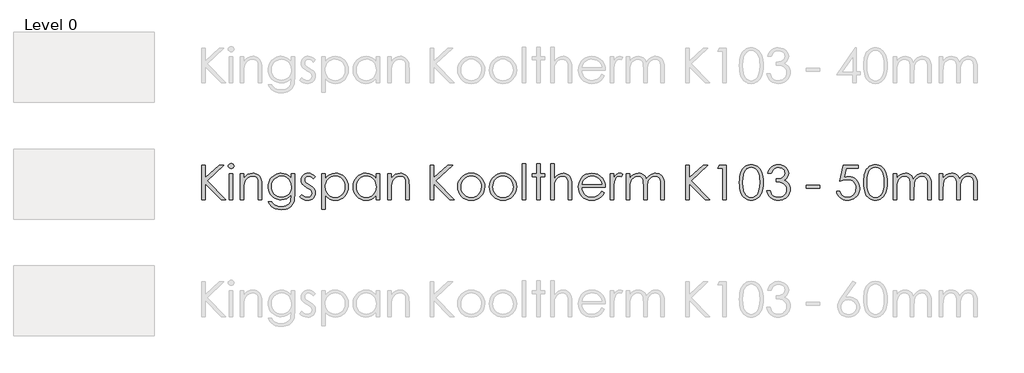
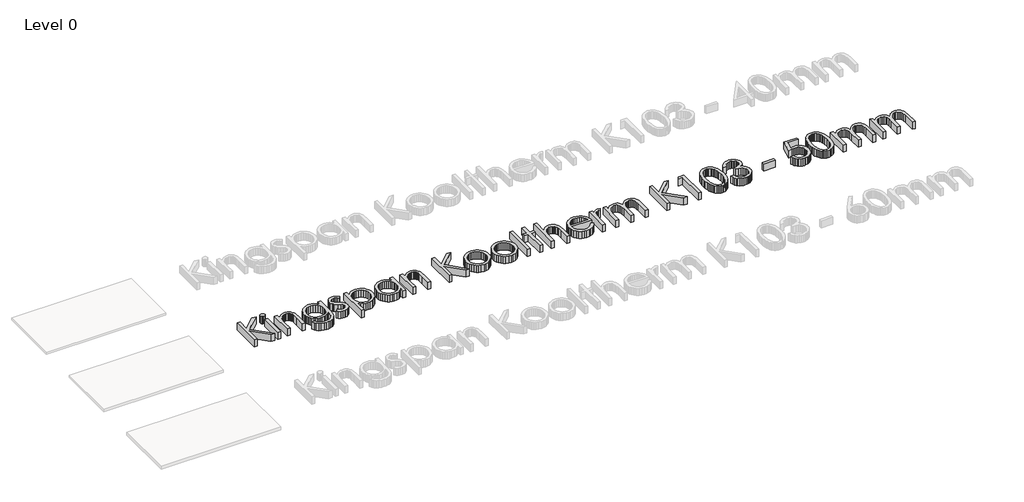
# One storey, part 11 of 13: 1 proxy.
"""IFC4 building model written with IfcOpenShell, lengths in millimetres."""

from ifc_helpers import new_model, si_unit, origin, origin_with_axes, place, context, project, spatial, polyline, outline, extrude, element, save

model = new_model("IFC4")

# Units and contexts
model_context = context("Model", 3, world=origin())
ifc_project = project(units=[si_unit("LENGTHUNIT", "METRE", prefix="MILLI")], contexts=[model_context])

# Site, building, storey
site = spatial("IfcSite", under=ifc_project)
building = spatial("IfcBuilding", under=site)
storey = spatial("IfcBuildingStorey", under=building, Name="Level 0", Elevation=0.0)

# Proxy
placement = place(None, origin())
element("IfcBuildingElementProxy", 1, Name="600mm KI_CenturyGothic", ObjectType="600mm KI_CenturyGothic", at=placement, inside=storey, context=model_context, shape_type="SweptSolid", body=[
    extrude(outline(polyline([(-3852.2663848, 1900.8965983), (-3792.944575, 1900.8965983), (-3792.944575, 1681.683973), (-3555.1938841, 1900.8965983), (-3471.6181051, 1900.8965983), (-3760.9664119, 1633.9484541), (-3441.9572002, 1307.6785001), (-3520.8984627, 1307.6785001), (-3792.944575, 1585.9039675), (-3792.944575, 1307.6785001), (-3852.2663848, 1307.6785001), (-3852.2663848, 1900.8965983)])), origin_with_axes(), (0.0, 0.0, 1.0), 150.0),
    extrude(outline(polyline([(-3348.1854852, 1930.5575033), (-3329.145347, 1927.2747208), (-3313.1176445, 1917.4263735), (-3302.226531, 1902.9821307), (-3298.5961598, 1885.911662), (-3302.226531, 1869.0729191), (-3313.1176445, 1854.7059183), (-3329.145347, 1844.857571), (-3348.1854852, 1841.5747885), (-3366.9938975, 1844.857571), (-3382.9443581, 1854.7059183), (-3393.8354717, 1869.0729191), (-3397.4658428, 1885.911662), (-3393.8354717, 1902.9821307), (-3382.9443581, 1917.4263735), (-3366.9938975, 1927.2747208), (-3348.1854852, 1930.5575033)])), origin_with_axes(), (0.0, 0.0, 1.0), 150.0),
    extrude(outline(polyline([(-3377.6919062, 1752.5920738), (-3318.3700964, 1752.5920738), (-3318.3700964, 1307.6785001), (-3377.6919062, 1307.6785001), (-3377.6919062, 1752.5920738)])), origin_with_axes(), (0.0, 0.0, 1.0), 150.0),
    extrude(outline(polyline([(-3189.8395084, 1752.5920738), (-3130.5176986, 1752.5920738), (-3130.5176986, 1673.4963274), (-3096.9946967, 1713.0055796), (-3060.0730495, 1740.696815), (-3019.7141359, 1757.0334853), (-2975.879335, 1762.4790421), (-2953.4357238, 1760.9004099), (-2932.2955704, 1756.1645135), (-2912.4588747, 1748.2713528), (-2893.9256368, 1737.2209277), (-2877.212412, 1723.4960006), (-2862.835756, 1707.5793333), (-2841.0921499, 1669.1707787), (-2833.6238199, 1644.7912914), (-2828.2892984, 1614.4448643), (-2824.0216812, 1535.8511905), (-2824.0216812, 1307.6785001), (-2883.343491, 1307.6785001), (-2883.343491, 1520.8662542), (-2883.343491, 1623.907002), (-2884.7290183, 1644.7043943), (-2889.8125035, 1662.7596977), (-2898.2849788, 1678.0729123), (-2910.1464442, 1690.644038), (-2924.7403432, 1700.4441091), (-2941.4101193, 1707.4441599), (-2980.977303, 1713.0442006), (-3005.3471351, 1710.8862539), (-3028.4038541, 1704.4124138), (-3050.1474602, 1693.6226803), (-3070.5779533, 1678.5170534), (-3088.6622225, 1660.2348518), (-3103.3671568, 1639.915394), (-3114.6927562, 1617.55868), (-3122.6390208, 1593.1647099), (-3128.5480292, 1546.0857475), (-3130.5176986, 1471.5858965), (-3130.5176986, 1307.6785001), (-3189.8395084, 1307.6785001), (-3189.8395084, 1752.5920738)])), origin_with_axes(), (0.0, 0.0, 1.0), 150.0),
    extrude(outline(polyline([(-2319.7862977, 1752.5920738), (-2260.4644879, 1752.5920738), (-2260.4644879, 1401.604699), (-2264.5196897, 1321.3503235), (-2269.588692, 1290.5500999), (-2276.6852953, 1265.9678526), (-2289.9371156, 1237.3545415), (-2307.2924139, 1212.2267729), (-2328.7511904, 1190.5845469), (-2354.3134448, 1172.4278634), (-2383.3226209, 1158.0656902), (-2415.122162, 1147.8069951), (-2449.7120682, 1141.651778), (-2487.0923395, 1139.6000389), (-2541.0458345, 1143.6166198), (-2589.206184, 1155.6663624), (-2630.260275, 1174.4940853), (-2662.8949946, 1198.8446068), (-2690.2000204, 1232.1938144), (-2715.2650299, 1278.0175952), (-2655.94322, 1278.0175952), (-2642.4355358, 1256.848476), (-2627.0933555, 1238.6048954), (-2609.9166791, 1223.2868532), (-2590.9055067, 1210.8943494), (-2569.7894914, 1201.3308318), (-2546.2982864, 1194.4997477), (-2492.1903075, 1189.0348805), (-2438.5071593, 1194.3645743), (-2415.083541, 1201.0266916), (-2393.93856, 1210.3536559), (-2359.6624492, 1234.3952097), (-2336.8567664, 1263.8823202), (-2329.3884364, 1282.5217658), (-2324.0539149, 1306.2302137), (-2319.7862977, 1368.8541165), (-2319.7862977, 1391.5632468), (-2354.757586, 1355.7809182), (-2396.6420279, 1329.3834852), (-2443.392712, 1313.1047464), (-2492.9627269, 1307.6785001), (-2522.4063889, 1309.5757553), (-2550.9521133, 1315.2675207), (-2578.5999001, 1324.7537964), (-2605.3497494, 1338.0345825), (-2630.1540674, 1354.5257366), (-2651.9652601, 1373.6431168), (-2670.7833277, 1395.3867228), (-2686.6082702, 1419.7565549), (-2699.1456025, 1446.0719183), (-2708.1008399, 1473.6521184), (-2713.4739824, 1502.4971553), (-2715.2650299, 1532.607029), (-2713.3967404, 1562.8955247), (-2707.7918722, 1592.1219437), (-2698.4504251, 1620.286286), (-2685.3723991, 1647.3885517), (-2668.9971079, 1672.5742517), (-2649.7638648, 1694.9888971), (-2627.67267, 1714.632488), (-2602.7235235, 1731.5050242), (-2575.9833294, 1745.056157), (-2548.5189922, 1754.7355376), (-2520.3305117, 1760.543166), (-2491.4178881, 1762.4790421), (-2444.5320306, 1757.5355579), (-2400.8903346, 1742.7051055), (-2359.6045177, 1716.1338782), (-2319.7862977, 1675.9680694), (-2319.7862977, 1752.5920738)]), holes=[polyline([(-2484.1571458, 1713.0442006), (-2529.0154023, 1707.0193293), (-2570.5908765, 1688.9447153), (-2606.2187212, 1660.2300242), (-2633.2340897, 1622.2849212), (-2650.2659375, 1578.0059792), (-2655.94322, 1530.2897708), (-2653.0080263, 1494.3770964), (-2644.2024452, 1461.7182387), (-2629.5264766, 1432.3131977), (-2608.9801206, 1406.1619734), (-2583.7606272, 1384.703197), (-2555.0652466, 1369.3754996), (-2522.8939786, 1360.1788811), (-2487.2468234, 1357.1133416), (-2451.3244937, 1360.154743), (-2419.1001219, 1369.2789472), (-2390.573708, 1384.4859541), (-2365.7452519, 1405.7757637), (-2345.6382095, 1432.0187128), (-2331.2760363, 1462.0851379), (-2322.6587323, 1495.975039), (-2319.7862977, 1533.6884162), (-2325.0773706, 1582.3894593), (-2340.9505892, 1625.6063246), (-2366.4983608, 1661.8327944), (-2400.8130926, 1689.5626508), (-2440.9982119, 1707.1738131), (-2484.1571458, 1713.0442006)])]), origin_with_axes(), (0.0, 0.0, 1.0), 150.0),
    extrude(outline(polyline([(-1904.5336289, 1701.3034257), (-1940.9918246, 1663.609359), (-1962.9575012, 1685.2371022), (-1984.6721416, 1700.6854902), (-2006.1357456, 1709.954523), (-2027.3483133, 1713.0442006), (-2052.181597, 1708.3710632), (-2073.2300256, 1694.3516511), (-2087.5970264, 1674.1142629), (-2092.3860267, 1650.787197), (-2088.4466878, 1629.2366958), (-2076.628671, 1608.7675817), (-2052.0657341, 1586.599145), (-2010.2006027, 1560.877579), (-1958.3326401, 1528.0111336), (-1939.8428507, 1512.1861912), (-1926.315856, 1496.7667689), (-1909.9791857, 1464.0934284), (-1904.5336289, 1427.5579908), (-1906.9474396, 1401.4115941), (-1914.1888714, 1377.3507299), (-1926.2579245, 1355.375398), (-1943.1545989, 1335.4855985), (-1963.6719892, 1318.9944443), (-1986.6031901, 1307.2150485), (-2011.9482016, 1300.147411), (-2039.7070237, 1297.7915318), (-2077.4397114, 1301.6729393), (-2113.3958344, 1313.3171617), (-2145.4512394, 1331.7972958), (-2171.4817731, 1356.1864383), (-2135.7959969, 1396.6612148), (-2114.0041146, 1375.0334717), (-2091.5749863, 1359.5850837), (-2068.5086121, 1350.3160509), (-2044.8049918, 1347.2263733), (-2013.637869, 1352.8650349), (-1987.4914724, 1369.7810198), (-1969.7644472, 1394.3439566), (-1963.8554388, 1422.9234744), (-1967.7561567, 1446.7139919), (-1979.4583106, 1467.7237995), (-2005.0253927, 1489.4287846), (-2050.2119275, 1516.2317378), (-2099.762632, 1546.8967879), (-2117.441381, 1562.0555186), (-2130.3890611, 1577.0983864), (-2146.3781427, 1609.2310334), (-2151.7078365, 1645.689229), (-2149.5305794, 1669.7356104), (-2142.9988078, 1691.6674937), (-2132.1125219, 1711.4848789), (-2116.8717217, 1729.187766), (-2098.309518, 1743.7526993), (-2077.4590218, 1754.1562231), (-2054.3202332, 1760.3983373), (-2028.8931521, 1762.4790421), (-1997.9481, 1758.6555661), (-1966.9064954, 1747.185138), (-1935.7683384, 1728.0677579), (-1904.5336289, 1701.3034257)])), origin_with_axes(), (0.0, 0.0, 1.0), 150.0),
    extrude(outline(polyline([(-1795.7769776, 1752.5920738), (-1736.4551678, 1752.5920738), (-1736.4551678, 1671.4880369), (-1700.9238754, 1711.7310876), (-1660.4490989, 1740.0788795), (-1614.9922173, 1756.8790014), (-1564.5146096, 1762.4790421), (-1520.0618732, 1758.2403906), (-1478.9305402, 1745.5244363), (-1441.1206107, 1724.331179), (-1406.6320845, 1694.6606189), (-1377.9077381, 1659.0231189), (-1357.3903478, 1619.929042), (-1345.0799137, 1577.3783884), (-1340.9764356, 1531.371158), (-1345.0412927, 1484.4708176), (-1357.235864, 1441.2491246), (-1377.5601494, 1401.706079), (-1406.014149, 1365.8416808), (-1440.2130179, 1336.0697406), (-1477.7719111, 1314.8040691), (-1518.6908288, 1302.0446661), (-1562.9697708, 1297.7915318), (-1612.6170277, 1303.256399), (-1658.0545988, 1319.6510008), (-1699.3211052, 1346.8980951), (-1736.4551678, 1384.92044), (-1736.4551678, 1149.4870072), (-1795.7769776, 1149.4870072), (-1795.7769776, 1752.5920738)]), holes=[polyline([(-1568.5311905, 1713.0442006), (-1602.5852307, 1709.7469353), (-1633.8392507, 1699.8551393), (-1662.2932503, 1683.3688128), (-1687.9472295, 1660.2879556), (-1709.1694525, 1632.3022353), (-1724.3281832, 1601.1013192), (-1733.4234216, 1566.6852074), (-1736.4551678, 1529.0538998), (-1731.048232, 1480.1983728), (-1714.8274246, 1436.5180558), (-1688.5265441, 1399.6736505), (-1652.8793888, 1371.3258586), (-1611.4390881, 1353.2512446), (-1567.7587711, 1347.2263733), (-1525.0632888, 1353.2898656), (-1485.0326535, 1371.4803424), (-1450.2544701, 1400.5812433), (-1423.3163435, 1439.3760076), (-1406.05277, 1484.0411593), (-1400.2982454, 1530.7532225), (-1405.9948385, 1577.6970114), (-1423.0846177, 1622.1304373), (-1449.8103289, 1660.4810605), (-1484.414718, 1689.1764411), (-1524.7157001, 1707.0772607), (-1568.5311905, 1713.0442006)])]), origin_with_axes(), (0.0, 0.0, 1.0), 150.0),
    extrude(outline(polyline([(-807.0801472, 1752.5920738), (-807.0801472, 1307.6785001), (-866.401957, 1307.6785001), (-866.401957, 1383.5300851), (-903.4780882, 1345.6815345), (-944.8797679, 1318.9558233), (-990.4525125, 1303.0826047), (-1040.0418379, 1297.7915318), (-1084.3159523, 1302.0446661), (-1125.2203871, 1314.8040691), (-1162.7551422, 1336.0697406), (-1196.9202178, 1365.8416808), (-1225.340424, 1401.706079), (-1245.6405713, 1441.2491246), (-1257.8206597, 1484.4708176), (-1261.8806892, 1531.371158), (-1257.7820388, 1577.3783884), (-1245.4860875, 1619.929042), (-1224.9928353, 1659.0231189), (-1196.3022822, 1694.6606189), (-1161.8475494, 1724.331179), (-1124.061758, 1745.5244363), (-1082.9449079, 1758.2403906), (-1038.4969991, 1762.4790421), (-987.7490446, 1756.8790014), (-942.0990581, 1740.0788795), (-921.2051134, 1727.3918909), (-901.6242816, 1711.7310876), (-866.401957, 1671.4880369), (-866.401957, 1752.5920738), (-807.0801472, 1752.5920738)]), holes=[polyline([(-1034.3259343, 1713.0442006), (-1078.1414247, 1707.0772607), (-1118.4424068, 1689.1764411), (-1153.0467959, 1660.4810605), (-1179.7725071, 1622.1304373), (-1196.8622863, 1577.6970114), (-1202.5588794, 1530.7532225), (-1196.8043548, 1484.0411593), (-1179.5407813, 1439.3760076), (-1152.6026548, 1400.5812433), (-1117.8244713, 1371.4803424), (-1077.6779731, 1353.2898656), (-1034.6349021, 1347.2263733), (-991.0125165, 1353.2512446), (-949.7460102, 1371.3258586), (-914.2726493, 1399.6736505), (-888.0297002, 1436.5180558), (-871.8088928, 1480.1983728), (-866.401957, 1529.0538998), (-869.4337032, 1566.6852074), (-878.5289416, 1601.1013192), (-893.6876723, 1632.3022353), (-914.9098953, 1660.2879556), (-940.5638746, 1683.3688128), (-969.0178742, 1699.8551393), (-1000.2718941, 1709.7469353), (-1034.3259343, 1713.0442006)])]), origin_with_axes(), (0.0, 0.0, 1.0), 150.0),
    extrude(outline(polyline([(-668.662591, 1752.5920738), (-609.3407811, 1752.5920738), (-609.3407811, 1673.4963274), (-575.8177792, 1713.0055796), (-538.896132, 1740.696815), (-498.5372184, 1757.0334853), (-454.7024175, 1762.4790421), (-432.2588064, 1760.9004099), (-411.1186529, 1756.1645135), (-391.2819572, 1748.2713528), (-372.7487193, 1737.2209277), (-356.0354946, 1723.4960006), (-341.6588385, 1707.5793333), (-319.9152324, 1669.1707787), (-312.4469024, 1644.7912914), (-307.1123809, 1614.4448643), (-302.8447637, 1535.8511905), (-302.8447637, 1307.6785001), (-362.1665735, 1307.6785001), (-362.1665735, 1520.8662542), (-362.1665735, 1623.907002), (-363.5521008, 1644.7043943), (-368.635586, 1662.7596977), (-377.1080613, 1678.0729123), (-388.9695267, 1690.644038), (-403.5634257, 1700.4441091), (-420.2332018, 1707.4441599), (-459.8003855, 1713.0442006), (-484.1702176, 1710.8862539), (-507.2269366, 1704.4124138), (-528.9705427, 1693.6226803), (-549.4010358, 1678.5170534), (-567.485305, 1660.2348518), (-582.1902393, 1639.915394), (-593.5158387, 1617.55868), (-601.4621033, 1593.1647099), (-607.3711117, 1546.0857475), (-609.3407811, 1471.5858965), (-609.3407811, 1307.6785001), (-668.662591, 1307.6785001), (-668.662591, 1752.5920738)])), origin_with_axes(), (0.0, 0.0, 1.0), 150.0),
    extrude(outline(polyline([(62.9730635, 1900.8965983), (122.2948734, 1900.8965983), (122.2948734, 1681.683973), (360.0455643, 1900.8965983), (443.6213432, 1900.8965983), (154.2730365, 1633.9484541), (473.2822481, 1307.6785001), (394.3409856, 1307.6785001), (122.2948734, 1585.9039675), (122.2948734, 1307.6785001), (62.9730635, 1307.6785001), (62.9730635, 1900.8965983)])), origin_with_axes(), (0.0, 0.0, 1.0), 150.0),
    extrude(outline(polyline([(760.1588128, 1762.4790421), (809.4681362, 1757.8541809), (854.3553585, 1743.9795975), (894.8204798, 1720.8552917), (930.8635, 1688.4812637), (957.7630055, 1653.2492839), (976.9769381, 1614.908316), (988.5052976, 1573.45836), (992.3480841, 1528.8994159), (988.283227, 1484.0846079), (976.0886558, 1442.1760279), (955.7643703, 1403.1736759), (927.3103707, 1367.0775519), (892.4742558, 1336.7649181), (853.0036246, 1315.1130368), (808.8984769, 1302.1219081), (760.1588128, 1297.7915318), (711.2839754, 1302.1219081), (667.0822753, 1315.1130368), (627.5537126, 1336.7649181), (592.6982872, 1367.0775519), (564.2442876, 1403.1736759), (543.9200022, 1442.1760279), (531.7254309, 1484.0846079), (527.6605738, 1528.8994159), (531.5033603, 1573.2652551), (543.0317198, 1614.5993482), (562.2456524, 1652.9016951), (589.145158, 1688.1722959), (625.2074886, 1720.6814974), (665.7305413, 1743.9023555), (710.7143161, 1757.8348705), (760.1588128, 1762.4790421)]), holes=[polyline([(760.004329, 1713.0442006), (725.7282181, 1709.6696933), (693.9624704, 1699.5461716), (664.7070856, 1682.6736353), (637.962064, 1659.0520846), (615.6584538, 1630.6415336), (599.7273037, 1599.4019965), (590.1686137, 1565.3334734), (586.9823836, 1528.4359643), (592.7948396, 1480.7004454), (610.2322075, 1436.3635719), (637.5758543, 1398.5729529), (673.1071466, 1370.4761972), (714.6439998, 1353.0388293), (760.004329, 1347.2263733), (805.3646581, 1353.0388293), (846.9015113, 1370.4761972), (882.4328037, 1398.5729529), (909.7764504, 1436.3635719), (927.2138183, 1480.7004454), (933.0262743, 1528.4359643), (929.8255614, 1565.3334734), (920.2234227, 1599.4019965), (904.2198583, 1630.6415336), (881.8148681, 1659.0520846), (854.9974321, 1682.6736353), (825.7565303, 1699.5461716), (794.0921625, 1709.6696933), (760.004329, 1713.0442006)])]), origin_with_axes(), (0.0, 0.0, 1.0), 150.0),
    extrude(outline(polyline([(1303.9420695, 1762.4790421), (1353.2513929, 1757.8541809), (1398.1386152, 1743.9795975), (1438.6037365, 1720.8552917), (1474.6467567, 1688.4812637), (1501.5462622, 1653.2492839), (1520.7601948, 1614.908316), (1532.2885543, 1573.45836), (1536.1313408, 1528.8994159), (1532.0664837, 1484.0846079), (1519.8719125, 1442.1760279), (1499.547627, 1403.1736759), (1471.0936274, 1367.0775519), (1436.2575126, 1336.7649181), (1396.7868813, 1315.1130368), (1352.6817336, 1302.1219081), (1303.9420695, 1297.7915318), (1255.0672321, 1302.1219081), (1210.865532, 1315.1130368), (1171.3369693, 1336.7649181), (1136.4815439, 1367.0775519), (1108.0275443, 1403.1736759), (1087.7032589, 1442.1760279), (1075.5086876, 1484.0846079), (1071.4438305, 1528.8994159), (1075.286617, 1573.2652551), (1086.8149766, 1614.5993482), (1106.0289091, 1652.9016951), (1132.9284147, 1688.1722959), (1168.9907453, 1720.6814974), (1209.5137981, 1743.9023555), (1254.4975728, 1757.8348705), (1303.9420695, 1762.4790421)]), holes=[polyline([(1303.7875857, 1713.0442006), (1269.5114748, 1709.6696933), (1237.7457271, 1699.5461716), (1208.4903423, 1682.6736353), (1181.7453207, 1659.0520846), (1159.4417105, 1630.6415336), (1143.5105604, 1599.4019965), (1133.9518704, 1565.3334734), (1130.7656404, 1528.4359643), (1136.5780963, 1480.7004454), (1154.0154643, 1436.3635719), (1181.359111, 1398.5729529), (1216.8904033, 1370.4761972), (1258.4272565, 1353.0388293), (1303.7875857, 1347.2263733), (1349.1479149, 1353.0388293), (1390.684768, 1370.4761972), (1426.2160604, 1398.5729529), (1453.5597071, 1436.3635719), (1470.997075, 1480.7004454), (1476.809531, 1528.4359643), (1473.6088181, 1565.3334734), (1464.0066795, 1599.4019965), (1448.003115, 1630.6415336), (1425.5981249, 1659.0520846), (1398.7806889, 1682.6736353), (1369.539787, 1699.5461716), (1337.8754193, 1709.6696933), (1303.7875857, 1713.0442006)])]), origin_with_axes(), (0.0, 0.0, 1.0), 150.0),
    extrude(outline(polyline([(1635.0010238, 1920.6705349), (1694.3228337, 1920.6705349), (1694.3228337, 1307.6785001), (1635.0010238, 1307.6785001), (1635.0010238, 1920.6705349)])), origin_with_axes(), (0.0, 0.0, 1.0), 150.0),
    extrude(outline(polyline([(1882.1752314, 1920.6705349), (1941.4970413, 1920.6705349), (1941.4970413, 1752.5920738), (2020.5927877, 1752.5920738), (2020.5927877, 1703.1572323), (1941.4970413, 1703.1572323), (1941.4970413, 1307.6785001), (1882.1752314, 1307.6785001), (1882.1752314, 1703.1572323), (1803.079485, 1703.1572323), (1803.079485, 1752.5920738), (1882.1752314, 1752.5920738), (1882.1752314, 1920.6705349)])), origin_with_axes(), (0.0, 0.0, 1.0), 150.0),
    extrude(outline(polyline([(2119.4624707, 1920.6705349), (2178.7842806, 1920.6705349), (2178.7842806, 1671.9514886), (2212.5583188, 1711.6538456), (2249.6151394, 1739.9243956), (2289.9161216, 1756.8403805), (2333.4226442, 1762.4790421), (2355.8662553, 1760.9004099), (2377.0064088, 1756.1645135), (2396.8431044, 1748.2713528), (2415.3763424, 1737.2209277), (2432.0895671, 1723.5104834), (2446.4662232, 1707.6372648), (2468.2098293, 1669.4025045), (2475.6781593, 1645.0954316), (2481.0126808, 1614.7345216), (2485.280298, 1535.8511905), (2485.280298, 1307.6785001), (2425.9584882, 1307.6785001), (2425.9584882, 1520.8662542), (2424.5681332, 1585.247411), (2420.3970685, 1623.907002), (2406.879729, 1662.7596977), (2397.1665551, 1678.0729123), (2385.4837117, 1690.644038), (2371.840854, 1700.4441091), (2356.2476374, 1707.4441599), (2319.2101273, 1713.0442006), (2296.3416854, 1710.8862539), (2274.6994594, 1704.4124138), (2254.2834492, 1693.6226803), (2235.0936547, 1678.5170534), (2218.1052556, 1660.2348518), (2204.2934312, 1639.915394), (2193.6581816, 1617.55868), (2186.1995068, 1593.1647099), (2180.6380871, 1546.3174733), (2178.7842806, 1471.5858965), (2178.7842806, 1307.6785001), (2119.4624707, 1307.6785001), (2119.4624707, 1920.6705349)])), origin_with_axes(), (0.0, 0.0, 1.0), 150.0),
    extrude(outline(polyline([(2991.0605203, 1455.9830247), (3038.950523, 1430.8021523), (3013.3255094, 1388.9177104), (2984.0315038, 1355.9547125), (2950.952643, 1330.8703926), (2913.9730643, 1312.6219843), (2872.4941426, 1301.4991449), (2825.9172528, 1297.7915318), (2774.4258447, 1302.2232881), (2728.8627554, 1315.518557), (2689.227985, 1337.6773385), (2655.5215335, 1368.6996326), (2628.6220279, 1405.3026569), (2609.4080954, 1444.2036288), (2597.8797358, 1485.4025485), (2594.0369493, 1528.8994159), (2597.3197318, 1569.7797126), (2607.1680791, 1608.381372), (2623.5819913, 1644.7043943), (2646.5614684, 1678.7487793), (2682.7493173, 1715.3807692), (2724.5758277, 1741.5464764), (2772.0409998, 1757.2459007), (2825.1448334, 1762.4790421), (2879.7935059, 1757.1107273), (2928.6490329, 1741.0057828), (2971.7114143, 1714.1642087), (3008.9806503, 1676.5860049), (3030.4539096, 1644.414737), (3045.9022976, 1608.458614), (3055.3258143, 1568.7176359), (3058.7244596, 1525.1918028), (2653.3587591, 1525.1918028), (2657.095338, 1487.9370497), (2666.6057518, 1454.1871496), (2681.8900007, 1423.9421025), (2702.9480845, 1397.2019084), (2728.3124066, 1375.3376118), (2756.5153699, 1359.7202571), (2787.5569744, 1350.3498443), (2821.4372203, 1347.2263733), (2854.9602222, 1350.238809), (2887.5563208, 1359.2761159), (2917.2944677, 1373.3148385), (2942.2436143, 1391.331521), (2965.725164, 1417.4972281), (2991.0605203, 1455.9830247)]), holes=[polyline([(2999.4026498, 1574.6266443), (2984.9777175, 1617.1483322), (2965.1844704, 1650.1692615), (2939.0766947, 1675.6977226), (2905.7081767, 1695.742006), (2867.7630738, 1708.7186519), (2827.9255433, 1713.0442006), (2795.503239, 1710.3310774), (2765.4368139, 1702.191708), (2737.726268, 1688.6260923), (2712.3716012, 1669.6342304), (2695.8321708, 1651.820308), (2681.4362043, 1630.0477362), (2669.1837016, 1604.316515), (2659.0746627, 1574.6266443), (2999.4026498, 1574.6266443)])]), origin_with_axes(), (0.0, 0.0, 1.0), 150.0),
    extrude(outline(polyline([(3137.820206, 1752.5920738), (3197.1420159, 1752.5920738), (3197.1420159, 1688.1722959), (3222.6897875, 1721.2125357), (3249.589293, 1744.3271862), (3277.7632906, 1757.9410781), (3307.1345382, 1762.4790421), (3330.4616041, 1758.694187), (3355.3335087, 1747.3396219), (3325.8270877, 1705.3200066), (3297.2475699, 1713.0442006), (3270.8308265, 1707.0965712), (3245.3409863, 1689.2536831), (3223.2884125, 1658.8976007), (3207.183468, 1615.4103886), (3199.6523789, 1557.2858288), (3197.1420159, 1459.8451217), (3197.1420159, 1307.6785001), (3137.820206, 1307.6785001), (3137.820206, 1752.5920738)])), origin_with_axes(), (0.0, 0.0, 1.0), 150.0),
    extrude(outline(polyline([(3414.6553185, 1752.5920738), (3473.9771284, 1752.5920738), (3473.9771284, 1676.4315211), (3503.5607913, 1712.9283377), (3533.9168737, 1738.0705891), (3577.3268439, 1756.3769288), (3622.8995884, 1762.4790421), (3653.7384329, 1759.331433), (3682.9165757, 1749.8886059), (3708.6767627, 1735.2126373), (3729.2617397, 1716.365604), (3746.0425511, 1690.9336953), (3760.3902414, 1656.5031006), (3775.16759, 1680.9018983), (3791.6925376, 1702.191708), (3809.965084, 1720.3725296), (3829.9852293, 1735.4443631), (3851.2798666, 1747.2720352), (3873.375889, 1755.7203723), (3896.2732965, 1760.7893747), (3919.9720892, 1762.4790421), (3962.3006723, 1756.6665861), (3981.4952943, 1749.4010161), (3999.3768034, 1739.2292182), (4015.4914031, 1726.46016), (4029.385297, 1711.4028093), (4050.5109676, 1674.4232306), (4057.8103309, 1651.0478886), (4063.0241619, 1622.4780261), (4067.1952266, 1549.7547397), (4067.1952266, 1307.6785001), (4007.8734168, 1307.6785001), (4007.8734168, 1553.3078689), (4005.4209852, 1614.4255538), (3998.0636904, 1652.8727294), (3984.7587663, 1677.3391139), (3964.4634466, 1696.5144254), (3938.3942919, 1708.9117568), (3907.7678627, 1713.0442006), (3888.1194443, 1711.4945341), (3869.3399976, 1706.8455349), (3834.3880198, 1688.2495379), (3805.6540182, 1659.3031209), (3785.8800816, 1622.0531954), (3779.1889985, 1597.8957787), (3774.4096535, 1566.8252084), (3770.5861775, 1483.9446069), (3770.5861775, 1307.6785001), (3711.2643677, 1307.6785001), (3711.2643677, 1538.0139648), (3708.850557, 1606.469634), (3701.6091252, 1648.7016647), (3688.3621325, 1674.9446137), (3667.9316394, 1695.4330383), (3641.6114484, 1708.64141), (3610.6953619, 1713.0442006), (3573.7544042, 1707.0000188), (3539.2465676, 1688.8674734), (3510.2808401, 1660.500371), (3489.9662099, 1623.7525181), (3477.9743988, 1571.9231764), (3473.9771284, 1498.3116077), (3473.9771284, 1307.6785001), (3414.6553185, 1307.6785001), (3414.6553185, 1752.5920738)])), origin_with_axes(), (0.0, 0.0, 1.0), 150.0),
    extrude(outline(polyline([(4433.0130538, 1900.8965983), (4492.3348637, 1900.8965983), (4492.3348637, 1681.683973), (4730.0855546, 1900.8965983), (4813.6613335, 1900.8965983), (4524.3130268, 1633.9484541), (4843.3222385, 1307.6785001), (4764.3809759, 1307.6785001), (4492.3348637, 1585.9039675), (4492.3348637, 1307.6785001), (4433.0130538, 1307.6785001), (4433.0130538, 1900.8965983)])), origin_with_axes(), (0.0, 0.0, 1.0), 150.0),
    extrude(outline(polyline([(5010.6282802, 1900.8965983), (5125.1008351, 1900.8965983), (5125.1008351, 1307.6785001), (5065.7790253, 1307.6785001), (5065.7790253, 1851.4617568), (4976.7963106, 1851.4617568), (5010.6282802, 1900.8965983)])), origin_with_axes(), (0.0, 0.0, 1.0), 150.0),
    extrude(outline(polyline([(5352.5011061, 1604.1330653), (5354.0797383, 1658.5644948), (5358.8156347, 1706.4593252), (5366.7087954, 1747.8175564), (5377.7592204, 1782.6391884), (5391.6869077, 1812.2807828), (5408.2118552, 1838.0989012), (5427.334063, 1860.0935436), (5449.053531, 1878.26471), (5472.747496, 1892.4917098), (5497.793195, 1902.6538525), (5524.190628, 1908.7511381), (5551.9397949, 1910.7835666), (5580.1427582, 1908.7366552), (5606.974677, 1902.595921), (5632.4355515, 1892.361364), (5656.5253815, 1878.0329841), (5678.7083011, 1859.6156091), (5698.4484443, 1837.1140665), (5715.7458112, 1810.5283563), (5730.6004018, 1779.8584786), (5742.5294539, 1744.3416691), (5751.0502054, 1703.2151637), (5756.1626563, 1656.4789625), (5757.8668066, 1604.1330653), (5756.1867944, 1551.9464797), (5751.1467578, 1505.3792452), (5742.7466968, 1464.4313618), (5730.9866115, 1429.1028296), (5716.2768496, 1398.5777805), (5699.0277589, 1372.0403465), (5679.2393394, 1349.4905277), (5656.9115912, 1330.928324), (5632.6527944, 1316.4309774), (5607.0712295, 1306.0757299), (5580.1668963, 1299.8625813), (5551.9397949, 1297.7915318), (5524.2147661, 1299.7998222), (5497.8897474, 1305.8246936), (5472.964739, 1315.8661457), (5449.4397407, 1329.9241788), (5427.8651013, 1347.9601718), (5408.7911698, 1369.9355036), (5392.2179461, 1395.8501745), (5378.1454301, 1425.7041842), (5366.9260384, 1460.7237487), (5358.9121871, 1502.1350837), (5354.1038764, 1549.9381893), (5352.5011061, 1604.1330653)]), holes=[polyline([(5411.8229159, 1604.2875492), (5416.206396, 1515.961391), (5421.6857461, 1480.9804475), (5429.3568363, 1452.1209277), (5439.1713903, 1427.8814414), (5451.0811319, 1406.7605985), (5465.0860611, 1388.7583989), (5481.1861779, 1373.8748426), (5516.4857445, 1353.8884906), (5534.8886366, 1348.8919027), (5553.7936014, 1347.2263733), (5572.7854634, 1348.8581093), (5591.1400794, 1353.7533172), (5625.9375733, 1373.334149), (5641.694929, 1388.0101176), (5655.4439943, 1405.9302476), (5667.1847692, 1427.0945392), (5676.9172536, 1451.5029922), (5686.3793912, 1484.8618549), (5693.138061, 1521.4455687), (5698.5449967, 1604.2875492), (5693.7173755, 1685.8936587), (5687.682849, 1720.5849449), (5679.2345118, 1751.2017189), (5668.652366, 1777.864671), (5656.2164137, 1800.6944918), (5641.9266548, 1819.6911814), (5625.7830894, 1834.8547397), (5590.7152487, 1854.7252288), (5572.4861509, 1859.692851), (5553.7936014, 1861.3487251), (5534.7776014, 1859.692851), (5516.3505711, 1854.7252288), (5481.2634199, 1834.8547397), (5465.3177869, 1820.0435978), (5451.3900996, 1802.1041572), (5439.480358, 1781.0364181), (5429.5885621, 1756.8403805), (5421.8160919, 1727.9856883), (5416.2643275, 1692.9419857), (5411.8229159, 1604.2875492)])]), origin_with_axes(), (0.0, 0.0, 1.0), 150.0),
    extrude(outline(polyline([(5896.2843628, 1762.4790421), (5836.962553, 1762.4790421), (5847.4867673, 1796.1082517), (5861.9116996, 1825.6243279), (5880.2373498, 1851.0272709), (5902.463718, 1872.3170806), (5927.7314876, 1889.1461682), (5955.181342, 1901.1669451), (5984.8132812, 1908.3794113), (6016.6273051, 1910.7835666), (6062.9145376, 1905.6276672), (6105.9962296, 1890.1599687), (6142.7827034, 1865.9446205), (6170.1842816, 1834.545772), (6187.2161294, 1798.7634433), (6192.8934119, 1761.3976549), (6188.2106193, 1725.962915), (6174.1622415, 1694.4288931), (6150.7482785, 1666.7955891), (6117.9687303, 1643.063003), (6155.3538292, 1621.8987115), (6185.3237018, 1592.7012582), (6201.6120959, 1568.601773), (6213.2466631, 1543.1119328), (6220.2274034, 1516.2317378), (6222.5543169, 1487.9611878), (6220.8549942, 1463.2968708), (6215.7570261, 1439.2022132), (6207.2604128, 1415.6772149), (6195.365154, 1392.7218759), (6180.5347016, 1371.3355138), (6163.232507, 1352.5174462), (6143.4585704, 1336.2676731), (6121.2128917, 1322.5861945), (6097.0361646, 1311.7385296), (6071.4690825, 1303.9901975), (6044.5116454, 1299.3411982), (6016.1638535, 1297.7915318), (5978.6290984, 1300.4612064), (5944.3481599, 1308.47023), (5913.3210382, 1321.8186027), (5885.5477332, 1340.5063246), (5861.6654909, 1364.3596011), (5842.3115573, 1393.204638), (5827.4859325, 1427.0414353), (5817.1886164, 1465.869993), (5876.5104262, 1465.869993), (5895.5505644, 1415.1220385), (5907.6485832, 1395.830864), (5921.4652352, 1380.5948913), (5941.5288291, 1365.9961647), (5964.180028, 1355.5685028), (5989.4188318, 1349.3119057), (6017.2452407, 1347.2263733), (6048.6054683, 1349.7222535), (6076.7215344, 1357.2098941), (6101.593439, 1369.689295), (6123.2211822, 1387.1604562), (6140.7261368, 1407.9819867), (6153.2296758, 1430.512495), (6160.7317992, 1454.7519812), (6163.232507, 1480.7004454), (6158.2310914, 1515.2662135), (6143.2268446, 1547.5919654), (6119.8032263, 1574.9549226), (6089.5436964, 1594.6323067), (6046.6357988, 1607.4351583), (5985.2670776, 1614.1745175), (5985.2670776, 1663.609359), (6027.1515195, 1667.2590407), (6065.0580014, 1678.2080857), (6096.0706403, 1694.7957923), (6117.2735528, 1715.3614588), (6129.4970898, 1738.9202504), (6133.5716021, 1764.4873325), (6131.5102078, 1783.5178155), (6125.326025, 1801.2158749), (6115.0190537, 1817.5815109), (6100.5892938, 1832.6147235), (6083.0119248, 1845.1858492), (6063.2621263, 1854.1652247), (6041.3398983, 1859.55285), (6017.2452407, 1861.3487251), (5979.2228958, 1855.729374), (5946.7233496, 1838.8713206), (5932.4191078, 1825.6677765), (5919.2445295, 1808.5345487), (5896.2843628, 1762.4790421)])), origin_with_axes(), (0.0, 0.0, 1.0), 150.0),
    extrude(outline(polyline([(6499.3894294, 1554.8527077), (6726.7897004, 1554.8527077), (6726.7897004, 1505.4178662), (6499.3894294, 1505.4178662), (6499.3894294, 1554.8527077)])), origin_with_axes(), (0.0, 0.0, 1.0), 150.0),
    extrude(outline(polyline([(7389.2165767, 1900.8965983), (7389.2165767, 1851.4617568), (7181.8992101, 1851.4617568), (7147.4493049, 1690.4895541), (7185.0275087, 1699.9903127), (7218.6663735, 1703.1572323), (7258.2528677, 1699.7344488), (7294.2089907, 1689.4660984), (7326.5347425, 1672.3521811), (7355.2301232, 1648.3926969), (7378.7502939, 1619.0842083), (7395.5504158, 1585.923278), (7405.6304889, 1548.909906), (7408.9905133, 1508.0440921), (7407.2670525, 1479.0783647), (7402.0966702, 1451.3485083), (7393.4793663, 1424.8545229), (7381.4151408, 1399.5964086), (7366.410894, 1376.3948609), (7348.973526, 1356.0705754), (7329.103037, 1338.6235523), (7306.7994269, 1324.0537914), (7282.3668358, 1312.5640528), (7256.1094038, 1304.3570967), (7228.0271311, 1299.432923), (7198.1200175, 1297.7915318), (7162.7866576, 1300.5481035), (7130.3209047, 1308.8178187), (7100.7227589, 1322.6006774), (7073.9922201, 1341.8966795), (7051.2396412, 1365.5665064), (7033.575375, 1392.4708396), (7020.9994217, 1422.609679), (7013.5117812, 1455.9830247), (7072.833591, 1455.9830247), (7082.4115915, 1423.2517526), (7096.9330762, 1397.3563923), (7116.7649443, 1377.0417621), (7142.2740949, 1361.0526806), (7171.2977538, 1350.6829501), (7201.6731467, 1347.2263733), (7230.9623248, 1350.1519118), (7258.1176943, 1358.9285272), (7283.1392552, 1373.5562196), (7306.0270075, 1394.0349889), (7325.1202495, 1418.9068935), (7338.7582795, 1446.7139919), (7346.9410975, 1477.456284), (7349.6687035, 1511.1337697), (7347.2066167, 1541.3208854), (7339.8203562, 1568.5438415), (7327.509922, 1592.8026383), (7310.2753142, 1614.0972756), (7288.9179178, 1631.4332635), (7264.239118, 1643.816112), (7236.2389148, 1651.245821), (7204.9173082, 1653.7223907), (7176.2122723, 1651.8685842), (7144.6299741, 1646.3071645), (7072.833591, 1624.0614858), (7132.1554008, 1900.8965983), (7389.2165767, 1900.8965983)])), origin_with_axes(), (0.0, 0.0, 1.0), 150.0),
    extrude(outline(polyline([(7478.1992914, 1604.1330653), (7479.7779236, 1658.5644948), (7484.51382, 1706.4593252), (7492.4069808, 1747.8175564), (7503.4574058, 1782.6391884), (7517.3850931, 1812.2807828), (7533.9100406, 1838.0989012), (7553.0322483, 1860.0935436), (7574.7517163, 1878.26471), (7598.4456813, 1892.4917098), (7623.4913804, 1902.6538525), (7649.8888133, 1908.7511381), (7677.6379802, 1910.7835666), (7705.8409435, 1908.7366552), (7732.6728624, 1902.595921), (7758.1337368, 1892.361364), (7782.2235668, 1878.0329841), (7804.4064864, 1859.6156091), (7824.1466297, 1837.1140665), (7841.4439966, 1810.5283563), (7856.2985871, 1779.8584786), (7868.2276392, 1744.3416691), (7876.7483907, 1703.2151637), (7881.8608416, 1656.4789625), (7883.5649919, 1604.1330653), (7881.8849797, 1551.9464797), (7876.8449431, 1505.3792452), (7868.4448822, 1464.4313618), (7856.6847968, 1429.1028296), (7841.9750349, 1398.5777805), (7824.7259442, 1372.0403465), (7804.9375247, 1349.4905277), (7782.6097765, 1330.928324), (7758.3509797, 1316.4309774), (7732.7694148, 1306.0757299), (7705.8650816, 1299.8625813), (7677.6379802, 1297.7915318), (7649.9129514, 1299.7998222), (7623.5879328, 1305.8246936), (7598.6629243, 1315.8661457), (7575.137926, 1329.9241788), (7553.5632867, 1347.9601718), (7534.4893551, 1369.9355036), (7517.9161314, 1395.8501745), (7503.8436155, 1425.7041842), (7492.6242237, 1460.7237487), (7484.6103725, 1502.1350837), (7479.8020617, 1549.9381893), (7478.1992914, 1604.1330653)]), holes=[polyline([(7537.5211013, 1604.2875492), (7541.9045814, 1515.961391), (7547.3839315, 1480.9804475), (7555.0550216, 1452.1209277), (7564.8695756, 1427.8814414), (7576.7793172, 1406.7605985), (7590.7842464, 1388.7583989), (7606.8843633, 1373.8748426), (7642.1839298, 1353.8884906), (7660.586822, 1348.8919027), (7679.4917868, 1347.2263733), (7698.4836487, 1348.8581093), (7716.8382647, 1353.7533172), (7751.6357586, 1373.334149), (7767.3931143, 1388.0101176), (7781.1421796, 1405.9302476), (7792.8829545, 1427.0945392), (7802.6154389, 1451.5029922), (7812.0775766, 1484.8618549), (7818.8362463, 1521.4455687), (7824.2431821, 1604.2875492), (7819.4155608, 1685.8936587), (7813.3810343, 1720.5849449), (7804.9326971, 1751.2017189), (7794.3505514, 1777.864671), (7781.914599, 1800.6944918), (7767.6248402, 1819.6911814), (7751.4812747, 1834.8547397), (7716.413434, 1854.7252288), (7698.1843362, 1859.692851), (7679.4917868, 1861.3487251), (7660.4757867, 1859.692851), (7642.0487564, 1854.7252288), (7606.9616052, 1834.8547397), (7591.0159723, 1820.0435978), (7577.088285, 1802.1041572), (7565.1785434, 1781.0364181), (7555.2867474, 1756.8403805), (7547.5142772, 1727.9856883), (7541.9625128, 1692.9419857), (7537.5211013, 1604.2875492)])]), origin_with_axes(), (0.0, 0.0, 1.0), 150.0),
    extrude(outline(polyline([(7982.4346749, 1752.5920738), (8041.7564848, 1752.5920738), (8041.7564848, 1676.4315211), (8071.3401477, 1712.9283377), (8101.6962301, 1738.0705891), (8145.1062003, 1756.3769288), (8190.6789448, 1762.4790421), (8221.5177893, 1759.331433), (8250.6959321, 1749.8886059), (8276.4561191, 1735.2126373), (8297.0410961, 1716.365604), (8313.8219075, 1690.9336953), (8328.1695978, 1656.5031006), (8342.9469464, 1680.9018983), (8359.471894, 1702.191708), (8377.7444404, 1720.3725296), (8397.7645856, 1735.4443631), (8419.0592229, 1747.2720352), (8441.1552454, 1755.7203723), (8464.0526529, 1760.7893747), (8487.7514456, 1762.4790421), (8530.0800287, 1756.6665861), (8549.2746507, 1749.4010161), (8567.1561598, 1739.2292182), (8583.2707595, 1726.46016), (8597.1646534, 1711.4028093), (8618.290324, 1674.4232306), (8625.5896873, 1651.0478886), (8630.8035182, 1622.4780261), (8634.974583, 1549.7547397), (8634.974583, 1307.6785001), (8575.6527732, 1307.6785001), (8575.6527732, 1553.3078689), (8573.2003416, 1614.4255538), (8565.8430468, 1652.8727294), (8552.5381227, 1677.3391139), (8532.242803, 1696.5144254), (8506.1736483, 1708.9117568), (8475.5472191, 1713.0442006), (8455.8988006, 1711.4945341), (8437.119354, 1706.8455349), (8402.1673762, 1688.2495379), (8373.4333746, 1659.3031209), (8353.659438, 1622.0531954), (8346.9683549, 1597.8957787), (8342.1890099, 1566.8252084), (8338.3655339, 1483.9446069), (8338.3655339, 1307.6785001), (8279.0437241, 1307.6785001), (8279.0437241, 1538.0139648), (8276.6299134, 1606.469634), (8269.3884816, 1648.7016647), (8256.1414889, 1674.9446137), (8235.7109958, 1695.4330383), (8209.3908048, 1708.64141), (8178.4747183, 1713.0442006), (8141.5337606, 1707.0000188), (8107.025924, 1688.8674734), (8078.0601965, 1660.500371), (8057.7455663, 1623.7525181), (8045.7537552, 1571.9231764), (8041.7564848, 1498.3116077), (8041.7564848, 1307.6785001), (7982.4346749, 1307.6785001), (7982.4346749, 1752.5920738)])), origin_with_axes(), (0.0, 0.0, 1.0), 150.0),
    extrude(outline(polyline([(8773.3921393, 1752.5920738), (8832.7139491, 1752.5920738), (8832.7139491, 1676.4315211), (8862.2976121, 1712.9283377), (8892.6536944, 1738.0705891), (8936.0636646, 1756.3769288), (8981.6364092, 1762.4790421), (9012.4752537, 1759.331433), (9041.6533964, 1749.8886059), (9067.4135834, 1735.2126373), (9087.9985604, 1716.365604), (9104.7793718, 1690.9336953), (9119.1270621, 1656.5031006), (9133.9044108, 1680.9018983), (9150.4293583, 1702.191708), (9168.7019047, 1720.3725296), (9188.72205, 1735.4443631), (9210.0166873, 1747.2720352), (9232.1127097, 1755.7203723), (9255.0101172, 1760.7893747), (9278.7089099, 1762.4790421), (9321.037493, 1756.6665861), (9340.232115, 1749.4010161), (9358.1136241, 1739.2292182), (9374.2282238, 1726.46016), (9388.1221177, 1711.4028093), (9409.2477883, 1674.4232306), (9416.5471516, 1651.0478886), (9421.7609826, 1622.4780261), (9425.9320473, 1549.7547397), (9425.9320473, 1307.6785001), (9366.6102375, 1307.6785001), (9366.6102375, 1553.3078689), (9364.1578059, 1614.4255538), (9356.8005111, 1652.8727294), (9343.495587, 1677.3391139), (9323.2002673, 1696.5144254), (9297.1311126, 1708.9117568), (9266.5046834, 1713.0442006), (9246.856265, 1711.4945341), (9228.0768183, 1706.8455349), (9193.1248405, 1688.2495379), (9164.3908389, 1659.3031209), (9144.6169023, 1622.0531954), (9137.9258192, 1597.8957787), (9133.1464742, 1566.8252084), (9129.3229982, 1483.9446069), (9129.3229982, 1307.6785001), (9070.0011884, 1307.6785001), (9070.0011884, 1538.0139648), (9067.5873778, 1606.469634), (9060.3459459, 1648.7016647), (9047.0989532, 1674.9446137), (9026.6684601, 1695.4330383), (9000.3482691, 1708.64141), (8969.4321827, 1713.0442006), (8932.4912249, 1707.0000188), (8897.9833883, 1688.8674734), (8869.0176608, 1660.500371), (8848.7030306, 1623.7525181), (8836.7112195, 1571.9231764), (8832.7139491, 1498.3116077), (8832.7139491, 1307.6785001), (8773.3921393, 1307.6785001), (8773.3921393, 1752.5920738)])), origin_with_axes(), (0.0, 0.0, 1.0), 150.0),
])

save(model, "model.ifc")
